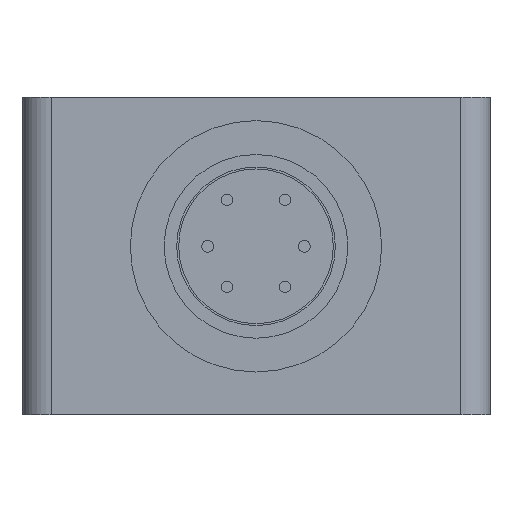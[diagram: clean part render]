
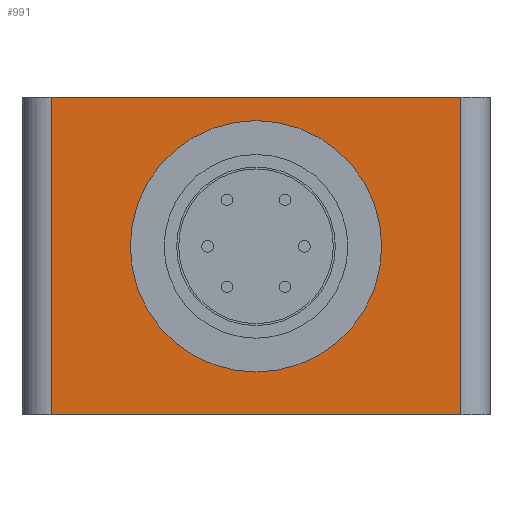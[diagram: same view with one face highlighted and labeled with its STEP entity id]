
A CAD part, front view. The second image highlights one B-rep face of the part: STEP entity #991.
In plain terms, the highlighted planar face has unit normal (0, -1, 0).
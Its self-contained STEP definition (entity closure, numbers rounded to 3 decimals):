
#246 = PLANE('',#247);
#247 = AXIS2_PLACEMENT_3D('',#248,#249,#250);
#248 = CARTESIAN_POINT('',(-2.1,-47.2,12.2));
#249 = DIRECTION('',(0.,0.,1.));
#250 = DIRECTION('',(1.,0.,0.));
#274 = CYLINDRICAL_SURFACE('',#275,1.5);
#275 = AXIS2_PLACEMENT_3D('',#276,#277,#278);
#276 = CARTESIAN_POINT('',(-0.6,-45.7,-4.2));
#277 = DIRECTION('',(0.,0.,1.));
#278 = DIRECTION('',(-1.,-0.,0.));
#302 = PLANE('',#303);
#303 = AXIS2_PLACEMENT_3D('',#304,#305,#306);
#304 = CARTESIAN_POINT('',(-2.1,-47.2,-4.2));
#305 = DIRECTION('',(0.,0.,1.));
#306 = DIRECTION('',(1.,0.,0.));
#345 = VERTEX_POINT('',#346);
#346 = CARTESIAN_POINT('',(-0.6,-47.2,12.2));
#368 = EDGE_CURVE('',#345,#369,#371,.T.);
#369 = VERTEX_POINT('',#370);
#370 = CARTESIAN_POINT('',(20.6,-47.2,12.2));
#371 = SURFACE_CURVE('',#372,(#376,#383),.PCURVE_S1.);
#372 = LINE('',#373,#374);
#373 = CARTESIAN_POINT('',(-2.1,-47.2,12.2));
#374 = VECTOR('',#375,1.);
#375 = DIRECTION('',(1.,0.,0.));
#376 = PCURVE('',#246,#377);
#377 = DEFINITIONAL_REPRESENTATION('',(#378),#382);
#378 = LINE('',#379,#380);
#379 = CARTESIAN_POINT('',(0.,0.));
#380 = VECTOR('',#381,1.);
#381 = DIRECTION('',(1.,0.));
#382 = ( GEOMETRIC_REPRESENTATION_CONTEXT(2) 
PARAMETRIC_REPRESENTATION_CONTEXT() REPRESENTATION_CONTEXT('2D SPACE',''
  ) );
#383 = PCURVE('',#384,#389);
#384 = PLANE('',#385);
#385 = AXIS2_PLACEMENT_3D('',#386,#387,#388);
#386 = CARTESIAN_POINT('',(-2.1,-47.2,-4.2));
#387 = DIRECTION('',(0.,1.,0.));
#388 = DIRECTION('',(0.,0.,1.));
#389 = DEFINITIONAL_REPRESENTATION('',(#390),#394);
#390 = LINE('',#391,#392);
#391 = CARTESIAN_POINT('',(16.4,0.));
#392 = VECTOR('',#393,1.);
#393 = DIRECTION('',(0.,1.));
#394 = ( GEOMETRIC_REPRESENTATION_CONTEXT(2) 
PARAMETRIC_REPRESENTATION_CONTEXT() REPRESENTATION_CONTEXT('2D SPACE',''
  ) );
#417 = CYLINDRICAL_SURFACE('',#418,1.5);
#418 = AXIS2_PLACEMENT_3D('',#419,#420,#421);
#419 = CARTESIAN_POINT('',(20.6,-45.7,-4.2));
#420 = DIRECTION('',(0.,0.,1.));
#421 = DIRECTION('',(1.,0.,-0.));
#655 = VERTEX_POINT('',#656);
#656 = CARTESIAN_POINT('',(-0.6,-47.2,-4.2));
#678 = EDGE_CURVE('',#655,#345,#679,.T.);
#679 = SURFACE_CURVE('',#680,(#684,#691),.PCURVE_S1.);
#680 = LINE('',#681,#682);
#681 = CARTESIAN_POINT('',(-0.6,-47.2,-4.2));
#682 = VECTOR('',#683,1.);
#683 = DIRECTION('',(0.,0.,1.));
#684 = PCURVE('',#274,#685);
#685 = DEFINITIONAL_REPRESENTATION('',(#686),#690);
#686 = LINE('',#687,#688);
#687 = CARTESIAN_POINT('',(1.571,0.));
#688 = VECTOR('',#689,1.);
#689 = DIRECTION('',(0.,1.));
#690 = ( GEOMETRIC_REPRESENTATION_CONTEXT(2) 
PARAMETRIC_REPRESENTATION_CONTEXT() REPRESENTATION_CONTEXT('2D SPACE',''
  ) );
#691 = PCURVE('',#384,#692);
#692 = DEFINITIONAL_REPRESENTATION('',(#693),#697);
#693 = LINE('',#694,#695);
#694 = CARTESIAN_POINT('',(0.,1.5));
#695 = VECTOR('',#696,1.);
#696 = DIRECTION('',(1.,0.));
#697 = ( GEOMETRIC_REPRESENTATION_CONTEXT(2) 
PARAMETRIC_REPRESENTATION_CONTEXT() REPRESENTATION_CONTEXT('2D SPACE',''
  ) );
#872 = EDGE_CURVE('',#655,#873,#875,.T.);
#873 = VERTEX_POINT('',#874);
#874 = CARTESIAN_POINT('',(20.6,-47.2,-4.2));
#875 = SURFACE_CURVE('',#876,(#880,#887),.PCURVE_S1.);
#876 = LINE('',#877,#878);
#877 = CARTESIAN_POINT('',(-2.1,-47.2,-4.2));
#878 = VECTOR('',#879,1.);
#879 = DIRECTION('',(1.,0.,0.));
#880 = PCURVE('',#302,#881);
#881 = DEFINITIONAL_REPRESENTATION('',(#882),#886);
#882 = LINE('',#883,#884);
#883 = CARTESIAN_POINT('',(0.,0.));
#884 = VECTOR('',#885,1.);
#885 = DIRECTION('',(1.,0.));
#886 = ( GEOMETRIC_REPRESENTATION_CONTEXT(2) 
PARAMETRIC_REPRESENTATION_CONTEXT() REPRESENTATION_CONTEXT('2D SPACE',''
  ) );
#887 = PCURVE('',#384,#888);
#888 = DEFINITIONAL_REPRESENTATION('',(#889),#893);
#889 = LINE('',#890,#891);
#890 = CARTESIAN_POINT('',(0.,0.));
#891 = VECTOR('',#892,1.);
#892 = DIRECTION('',(0.,1.));
#893 = ( GEOMETRIC_REPRESENTATION_CONTEXT(2) 
PARAMETRIC_REPRESENTATION_CONTEXT() REPRESENTATION_CONTEXT('2D SPACE',''
  ) );
#991 = ADVANCED_FACE('',(#992,#1018),#384,.F.);
#992 = FACE_BOUND('',#993,.F.);
#993 = EDGE_LOOP('',(#994,#995,#996,#997));
#994 = ORIENTED_EDGE('',*,*,#872,.F.);
#995 = ORIENTED_EDGE('',*,*,#678,.T.);
#996 = ORIENTED_EDGE('',*,*,#368,.T.);
#997 = ORIENTED_EDGE('',*,*,#998,.F.);
#998 = EDGE_CURVE('',#873,#369,#999,.T.);
#999 = SURFACE_CURVE('',#1000,(#1004,#1011),.PCURVE_S1.);
#1000 = LINE('',#1001,#1002);
#1001 = CARTESIAN_POINT('',(20.6,-47.2,-4.2));
#1002 = VECTOR('',#1003,1.);
#1003 = DIRECTION('',(0.,0.,1.));
#1004 = PCURVE('',#384,#1005);
#1005 = DEFINITIONAL_REPRESENTATION('',(#1006),#1010);
#1006 = LINE('',#1007,#1008);
#1007 = CARTESIAN_POINT('',(0.,22.7));
#1008 = VECTOR('',#1009,1.);
#1009 = DIRECTION('',(1.,0.));
#1010 = ( GEOMETRIC_REPRESENTATION_CONTEXT(2) 
PARAMETRIC_REPRESENTATION_CONTEXT() REPRESENTATION_CONTEXT('2D SPACE',''
  ) );
#1011 = PCURVE('',#417,#1012);
#1012 = DEFINITIONAL_REPRESENTATION('',(#1013),#1017);
#1013 = LINE('',#1014,#1015);
#1014 = CARTESIAN_POINT('',(-1.571,0.));
#1015 = VECTOR('',#1016,1.);
#1016 = DIRECTION('',(-0.,1.));
#1017 = ( GEOMETRIC_REPRESENTATION_CONTEXT(2) 
PARAMETRIC_REPRESENTATION_CONTEXT() REPRESENTATION_CONTEXT('2D SPACE',''
  ) );
#1018 = FACE_BOUND('',#1019,.F.);
#1019 = EDGE_LOOP('',(#1020));
#1020 = ORIENTED_EDGE('',*,*,#1021,.T.);
#1021 = EDGE_CURVE('',#1022,#1022,#1024,.T.);
#1022 = VERTEX_POINT('',#1023);
#1023 = CARTESIAN_POINT('',(12.2,-47.2,4.5));
#1024 = SURFACE_CURVE('',#1025,(#1030,#1041),.PCURVE_S1.);
#1025 = CIRCLE('',#1026,2.2);
#1026 = AXIS2_PLACEMENT_3D('',#1027,#1028,#1029);
#1027 = CARTESIAN_POINT('',(10.,-47.2,4.5));
#1028 = DIRECTION('',(0.,-1.,-0.));
#1029 = DIRECTION('',(1.,0.,0.));
#1030 = PCURVE('',#384,#1031);
#1031 = DEFINITIONAL_REPRESENTATION('',(#1032),#1040);
#1032 = ( BOUNDED_CURVE() B_SPLINE_CURVE(2,(#1033,#1034,#1035,#1036,
#1037,#1038,#1039),.UNSPECIFIED.,.T.,.F.) B_SPLINE_CURVE_WITH_KNOTS((1,2
    ,2,2,2,1),(-2.094,0.,2.094,4.189,
6.283,8.378),.UNSPECIFIED.) CURVE() 
GEOMETRIC_REPRESENTATION_ITEM() RATIONAL_B_SPLINE_CURVE((1.,0.5,1.,0.5,
1.,0.5,1.)) REPRESENTATION_ITEM('') );
#1033 = CARTESIAN_POINT('',(8.7,14.3));
#1034 = CARTESIAN_POINT('',(12.511,14.3));
#1035 = CARTESIAN_POINT('',(10.605,11.));
#1036 = CARTESIAN_POINT('',(8.7,7.7));
#1037 = CARTESIAN_POINT('',(6.795,11.));
#1038 = CARTESIAN_POINT('',(4.889,14.3));
#1039 = CARTESIAN_POINT('',(8.7,14.3));
#1040 = ( GEOMETRIC_REPRESENTATION_CONTEXT(2) 
PARAMETRIC_REPRESENTATION_CONTEXT() REPRESENTATION_CONTEXT('2D SPACE',''
  ) );
#1041 = PCURVE('',#1042,#1047);
#1042 = CYLINDRICAL_SURFACE('',#1043,2.2);
#1043 = AXIS2_PLACEMENT_3D('',#1044,#1045,#1046);
#1044 = CARTESIAN_POINT('',(10.,-47.3,4.5));
#1045 = DIRECTION('',(0.,-1.,-0.));
#1046 = DIRECTION('',(1.,0.,0.));
#1047 = DEFINITIONAL_REPRESENTATION('',(#1048),#1052);
#1048 = LINE('',#1049,#1050);
#1049 = CARTESIAN_POINT('',(-6.283,-0.1));
#1050 = VECTOR('',#1051,1.);
#1051 = DIRECTION('',(1.,-0.));
#1052 = ( GEOMETRIC_REPRESENTATION_CONTEXT(2) 
PARAMETRIC_REPRESENTATION_CONTEXT() REPRESENTATION_CONTEXT('2D SPACE',''
  ) );
